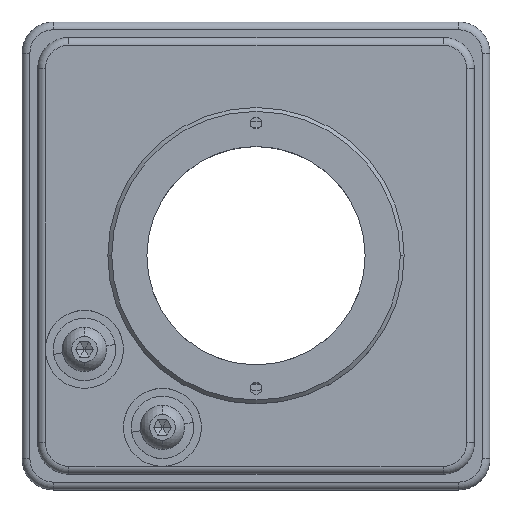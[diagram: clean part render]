
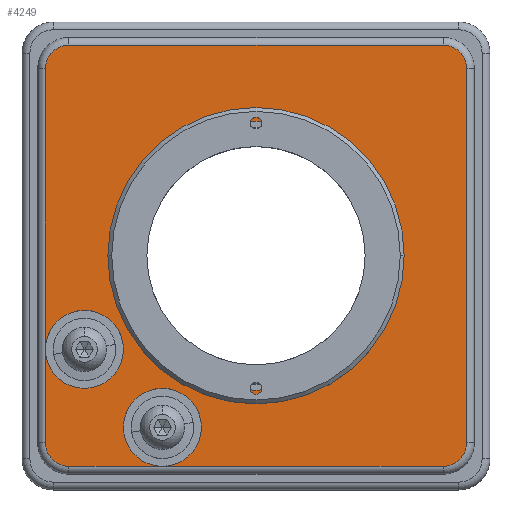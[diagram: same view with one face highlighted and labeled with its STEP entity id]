
A CAD part, top view. The second image highlights one B-rep face of the part: STEP entity #4249.
In plain terms, the highlighted planar face has unit normal (0, 0, 1).
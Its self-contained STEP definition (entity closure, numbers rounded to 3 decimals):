
#7 = VERTEX_POINT ( 'NONE', #8335 ) ;
#31 = DIRECTION ( 'NONE',  ( 0., 0., 1. ) ) ;
#32 = VECTOR ( 'NONE', #796, 1000. ) ;
#53 = DIRECTION ( 'NONE',  ( 1., 0., 0. ) ) ;
#341 = DIRECTION ( 'NONE',  ( 0., -1., 0. ) ) ;
#361 = EDGE_CURVE ( 'NONE', #4859, #3530, #6507, .T. ) ;
#365 = CARTESIAN_POINT ( 'NONE',  ( -27., -24., 18. ) ) ;
#415 = ORIENTED_EDGE ( 'NONE', *, *, #6096, .T. ) ;
#455 = CIRCLE ( 'NONE', #4040, 5. ) ;
#483 = EDGE_CURVE ( 'NONE', #3880, #8163, #4131, .T. ) ;
#525 = EDGE_CURVE ( 'NONE', #2346, #7, #5483, .T. ) ;
#526 = VERTEX_POINT ( 'NONE', #1329 ) ;
#622 = AXIS2_PLACEMENT_3D ( 'NONE', #3958, #7285, #2599 ) ;
#681 = CARTESIAN_POINT ( 'NONE',  ( -24., 24., 18. ) ) ;
#751 = CARTESIAN_POINT ( 'NONE',  ( -7., -22., 18. ) ) ;
#758 = VERTEX_POINT ( 'NONE', #751 ) ;
#796 = DIRECTION ( 'NONE',  ( 0., 1., 0. ) ) ;
#822 = EDGE_CURVE ( 'NONE', #758, #526, #3601, .T. ) ;
#885 = ORIENTED_EDGE ( 'NONE', *, *, #7981, .F. ) ;
#1130 = AXIS2_PLACEMENT_3D ( 'NONE', #1440, #6135, #2131 ) ;
#1206 = CARTESIAN_POINT ( 'NONE',  ( -22., -12., 18. ) ) ;
#1238 = VERTEX_POINT ( 'NONE', #5983 ) ;
#1311 = ORIENTED_EDGE ( 'NONE', *, *, #8338, .T. ) ;
#1329 = CARTESIAN_POINT ( 'NONE',  ( -17., -22., 18. ) ) ;
#1349 = DIRECTION ( 'NONE',  ( 1., 0., 0. ) ) ;
#1429 = CIRCLE ( 'NONE', #2751, 3. ) ;
#1440 = CARTESIAN_POINT ( 'NONE',  ( -24., -24., 18. ) ) ;
#1443 = EDGE_LOOP ( 'NONE', ( #1311, #7317, #7042, #7949, #4200, #7904, #415, #7240, #8366, #2885, #5081, #5860, #5409, #885, #8741 ) ) ;
#1550 = DIRECTION ( 'NONE',  ( 0., 0., 1. ) ) ;
#1601 = DIRECTION ( 'NONE',  ( 0., 0., 1. ) ) ;
#1634 = CARTESIAN_POINT ( 'NONE',  ( -24., 27., 18. ) ) ;
#1637 = CIRCLE ( 'NONE', #2353, 5. ) ;
#1689 = CIRCLE ( 'NONE', #2386, 5. ) ;
#1772 = EDGE_CURVE ( 'NONE', #8583, #3880, #5614, .T. ) ;
#1798 = EDGE_CURVE ( 'NONE', #2095, #3530, #6981, .T. ) ;
#1822 = DIRECTION ( 'NONE',  ( 1., 0., 0. ) ) ;
#1888 = DIRECTION ( 'NONE',  ( 1., 0., 0. ) ) ;
#2053 = CARTESIAN_POINT ( 'NONE',  ( -28., -28., 18. ) ) ;
#2095 = VERTEX_POINT ( 'NONE', #4424 ) ;
#2131 = DIRECTION ( 'NONE',  ( 1., 0., 0. ) ) ;
#2149 = ORIENTED_EDGE ( 'NONE', *, *, #6986, .F. ) ;
#2175 = EDGE_CURVE ( 'NONE', #526, #7, #455, .T. ) ;
#2230 = EDGE_LOOP ( 'NONE', ( #3080, #2149 ) ) ;
#2346 = VERTEX_POINT ( 'NONE', #3720 ) ;
#2353 = AXIS2_PLACEMENT_3D ( 'NONE', #6917, #2928, #7609 ) ;
#2386 = AXIS2_PLACEMENT_3D ( 'NONE', #1206, #5928, #1888 ) ;
#2560 = LINE ( 'NONE', #365, #5913 ) ;
#2599 = DIRECTION ( 'NONE',  ( 1., 0., 0. ) ) ;
#2751 = AXIS2_PLACEMENT_3D ( 'NONE', #5627, #1601, #6286 ) ;
#2842 = EDGE_CURVE ( 'NONE', #3530, #1238, #2560, .T. ) ;
#2885 = ORIENTED_EDGE ( 'NONE', *, *, #4180, .T. ) ;
#2891 = VECTOR ( 'NONE', #8415, 1000. ) ;
#2928 = DIRECTION ( 'NONE',  ( 0., 0., 1. ) ) ;
#3080 = ORIENTED_EDGE ( 'NONE', *, *, #8778, .F. ) ;
#3201 = CARTESIAN_POINT ( 'NONE',  ( -12., -22., 18. ) ) ;
#3508 = CARTESIAN_POINT ( 'NONE',  ( -12., -22., 18. ) ) ;
#3530 = VERTEX_POINT ( 'NONE', #5381 ) ;
#3537 = CARTESIAN_POINT ( 'NONE',  ( -27., -24., 18. ) ) ;
#3554 = AXIS2_PLACEMENT_3D ( 'NONE', #681, #5394, #1349 ) ;
#3560 = CIRCLE ( 'NONE', #3554, 3. ) ;
#3601 = CIRCLE ( 'NONE', #4336, 5. ) ;
#3697 = AXIS2_PLACEMENT_3D ( 'NONE', #2053, #31, #4757 ) ;
#3708 = VECTOR ( 'NONE', #8799, 1000. ) ;
#3712 = CARTESIAN_POINT ( 'NONE',  ( 24., -27., 18. ) ) ;
#3720 = CARTESIAN_POINT ( 'NONE',  ( -24., -27., 18. ) ) ;
#3871 = DIRECTION ( 'NONE',  ( 1., 0., 0. ) ) ;
#3880 = VERTEX_POINT ( 'NONE', #7030 ) ;
#3958 = CARTESIAN_POINT ( 'NONE',  ( -22., -12., 18. ) ) ;
#4040 = AXIS2_PLACEMENT_3D ( 'NONE', #3201, #7899, #3871 ) ;
#4111 = DIRECTION ( 'NONE',  ( 0., 0., 1. ) ) ;
#4131 = CIRCLE ( 'NONE', #5423, 3. ) ;
#4180 = EDGE_CURVE ( 'NONE', #8163, #7869, #4685, .T. ) ;
#4200 = ORIENTED_EDGE ( 'NONE', *, *, #6056, .F. ) ;
#4249 = ADVANCED_FACE ( 'NONE', ( #8062, #7612 ), #6725, .T. ) ;
#4336 = AXIS2_PLACEMENT_3D ( 'NONE', #3508, #7194, #1822 ) ;
#4424 = CARTESIAN_POINT ( 'NONE',  ( -17., -12., 18. ) ) ;
#4596 = CARTESIAN_POINT ( 'NONE',  ( 24., -27., 18. ) ) ;
#4610 = EDGE_CURVE ( 'NONE', #7, #4841, #8265, .T. ) ;
#4621 = VERTEX_POINT ( 'NONE', #5725 ) ;
#4681 = CARTESIAN_POINT ( 'NONE',  ( 24., 24., 18. ) ) ;
#4685 = LINE ( 'NONE', #8766, #7841 ) ;
#4709 = DIRECTION ( 'NONE',  ( -1., 0., 0. ) ) ;
#4731 = CARTESIAN_POINT ( 'NONE',  ( 24., -27., 18. ) ) ;
#4757 = DIRECTION ( 'NONE',  ( 1., 0., 0. ) ) ;
#4817 = CARTESIAN_POINT ( 'NONE',  ( 27., 24., 18. ) ) ;
#4841 = VERTEX_POINT ( 'NONE', #4596 ) ;
#4859 = VERTEX_POINT ( 'NONE', #8649 ) ;
#4880 = DIRECTION ( 'NONE',  ( 0., -1., 0. ) ) ;
#5081 = ORIENTED_EDGE ( 'NONE', *, *, #5845, .T. ) ;
#5187 = VERTEX_POINT ( 'NONE', #7403 ) ;
#5211 = AXIS2_PLACEMENT_3D ( 'NONE', #8151, #4111, #53 ) ;
#5344 = DIRECTION ( 'NONE',  ( 0., 0., 1. ) ) ;
#5381 = CARTESIAN_POINT ( 'NONE',  ( -27., -12., 18. ) ) ;
#5394 = DIRECTION ( 'NONE',  ( 0., 0., 1. ) ) ;
#5409 = ORIENTED_EDGE ( 'NONE', *, *, #1798, .F. ) ;
#5423 = AXIS2_PLACEMENT_3D ( 'NONE', #4681, #5344, #6008 ) ;
#5483 = LINE ( 'NONE', #4731, #3708 ) ;
#5569 = CARTESIAN_POINT ( 'NONE',  ( 0., 0., 18. ) ) ;
#5614 = LINE ( 'NONE', #4817, #32 ) ;
#5627 = CARTESIAN_POINT ( 'NONE',  ( 24., -24., 18. ) ) ;
#5725 = CARTESIAN_POINT ( 'NONE',  ( -17.25, 0., 18. ) ) ;
#5845 = EDGE_CURVE ( 'NONE', #7869, #4859, #3560, .T. ) ;
#5860 = ORIENTED_EDGE ( 'NONE', *, *, #361, .T. ) ;
#5913 = VECTOR ( 'NONE', #341, 1000. ) ;
#5928 = DIRECTION ( 'NONE',  ( 0., 0., 1. ) ) ;
#5983 = CARTESIAN_POINT ( 'NONE',  ( -27., -24., 18. ) ) ;
#6008 = DIRECTION ( 'NONE',  ( 1., 0., 0. ) ) ;
#6056 = EDGE_CURVE ( 'NONE', #7, #758, #1637, .T. ) ;
#6096 = EDGE_CURVE ( 'NONE', #4841, #8583, #1429, .T. ) ;
#6135 = DIRECTION ( 'NONE',  ( 0., 0., 1. ) ) ;
#6242 = DIRECTION ( 'NONE',  ( 1., 0., 0. ) ) ;
#6286 = DIRECTION ( 'NONE',  ( 1., 0., 0. ) ) ;
#6507 = LINE ( 'NONE', #3537, #8359 ) ;
#6725 = PLANE ( 'NONE',  #3697 ) ;
#6917 = CARTESIAN_POINT ( 'NONE',  ( -12., -22., 18. ) ) ;
#6981 = CIRCLE ( 'NONE', #622, 5. ) ;
#6986 = EDGE_CURVE ( 'NONE', #4621, #5187, #8075, .T. ) ;
#7030 = CARTESIAN_POINT ( 'NONE',  ( 27., 24., 18. ) ) ;
#7042 = ORIENTED_EDGE ( 'NONE', *, *, #2175, .F. ) ;
#7194 = DIRECTION ( 'NONE',  ( 0., 0., 1. ) ) ;
#7240 = ORIENTED_EDGE ( 'NONE', *, *, #1772, .T. ) ;
#7285 = DIRECTION ( 'NONE',  ( 0., 0., 1. ) ) ;
#7317 = ORIENTED_EDGE ( 'NONE', *, *, #525, .T. ) ;
#7403 = CARTESIAN_POINT ( 'NONE',  ( 17.25, 0., 18. ) ) ;
#7512 = CARTESIAN_POINT ( 'NONE',  ( 24., 27., 18. ) ) ;
#7609 = DIRECTION ( 'NONE',  ( 1., 0., 0. ) ) ;
#7612 = FACE_BOUND ( 'NONE', #2230, .T. ) ;
#7841 = VECTOR ( 'NONE', #4709, 1000. ) ;
#7869 = VERTEX_POINT ( 'NONE', #1634 ) ;
#7899 = DIRECTION ( 'NONE',  ( 0., 0., 1. ) ) ;
#7904 = ORIENTED_EDGE ( 'NONE', *, *, #4610, .T. ) ;
#7949 = ORIENTED_EDGE ( 'NONE', *, *, #822, .F. ) ;
#7981 = EDGE_CURVE ( 'NONE', #3530, #2095, #1689, .T. ) ;
#7991 = CIRCLE ( 'NONE', #5211, 17.25 ) ;
#8062 = FACE_OUTER_BOUND ( 'NONE', #1443, .T. ) ;
#8075 = CIRCLE ( 'NONE', #8289, 17.25 ) ;
#8151 = CARTESIAN_POINT ( 'NONE',  ( 0., 0., 18. ) ) ;
#8163 = VERTEX_POINT ( 'NONE', #7512 ) ;
#8265 = LINE ( 'NONE', #3712, #2891 ) ;
#8289 = AXIS2_PLACEMENT_3D ( 'NONE', #5569, #1550, #6242 ) ;
#8335 = CARTESIAN_POINT ( 'NONE',  ( -12., -27., 18. ) ) ;
#8338 = EDGE_CURVE ( 'NONE', #1238, #2346, #8670, .T. ) ;
#8359 = VECTOR ( 'NONE', #4880, 1000. ) ;
#8366 = ORIENTED_EDGE ( 'NONE', *, *, #483, .T. ) ;
#8415 = DIRECTION ( 'NONE',  ( 1., 0., 0. ) ) ;
#8583 = VERTEX_POINT ( 'NONE', #8629 ) ;
#8629 = CARTESIAN_POINT ( 'NONE',  ( 27., -24., 18. ) ) ;
#8649 = CARTESIAN_POINT ( 'NONE',  ( -27., 24., 18. ) ) ;
#8670 = CIRCLE ( 'NONE', #1130, 3. ) ;
#8741 = ORIENTED_EDGE ( 'NONE', *, *, #2842, .T. ) ;
#8766 = CARTESIAN_POINT ( 'NONE',  ( -24., 27., 18. ) ) ;
#8778 = EDGE_CURVE ( 'NONE', #5187, #4621, #7991, .T. ) ;
#8799 = DIRECTION ( 'NONE',  ( 1., 0., 0. ) ) ;
